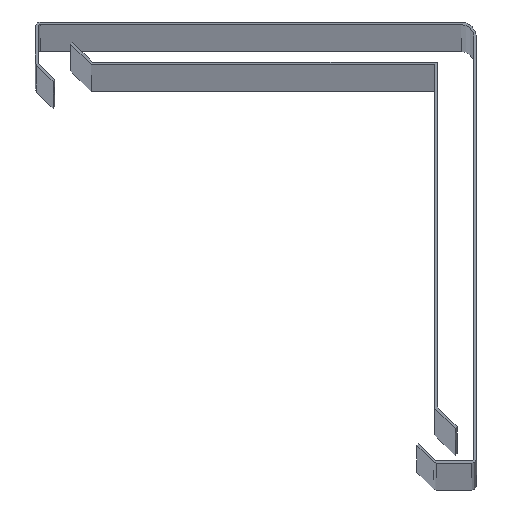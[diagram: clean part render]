
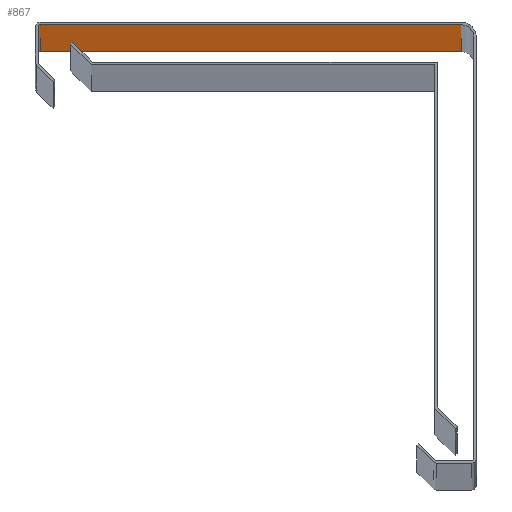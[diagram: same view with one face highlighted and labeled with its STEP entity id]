
A CAD part, top view. The second image highlights one B-rep face of the part: STEP entity #867.
In plain terms, the highlighted planar face has unit normal (0, -1, 0).
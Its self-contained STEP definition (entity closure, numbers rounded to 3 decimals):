
#27 = ORIENTED_EDGE ( 'NONE', *, *, #1517, .F. ) ;
#70 = FACE_OUTER_BOUND ( 'NONE', #1059, .T. ) ;
#121 = VERTEX_POINT ( 'NONE', #207 ) ;
#161 = DIRECTION ( 'NONE',  ( 0., 0., 1. ) ) ;
#163 = LINE ( 'NONE', #404, #545 ) ;
#196 = DIRECTION ( 'NONE',  ( -1., 0., 0. ) ) ;
#203 = EDGE_CURVE ( 'NONE', #121, #1338, #535, .T. ) ;
#207 = CARTESIAN_POINT ( 'NONE',  ( -2.54, 0., -3048. ) ) ;
#229 = VECTOR ( 'NONE', #231, 1000. ) ;
#231 = DIRECTION ( 'NONE',  ( -1., 0., 0. ) ) ;
#267 = PLANE ( 'NONE',  #657 ) ;
#351 = CARTESIAN_POINT ( 'NONE',  ( -2.54, 0., 0. ) ) ;
#404 = CARTESIAN_POINT ( 'NONE',  ( -85.884, 0., -3048. ) ) ;
#506 = ORIENTED_EDGE ( 'NONE', *, *, #203, .F. ) ;
#535 = LINE ( 'NONE', #1601, #1510 ) ;
#545 = VECTOR ( 'NONE', #161, 1000. ) ;
#578 = LINE ( 'NONE', #1630, #229 ) ;
#608 = CARTESIAN_POINT ( 'NONE',  ( -2.54, 0., -3048. ) ) ;
#612 = ORIENTED_EDGE ( 'NONE', *, *, #686, .T. ) ;
#654 = DIRECTION ( 'NONE',  ( -1., 0., 0. ) ) ;
#657 = AXIS2_PLACEMENT_3D ( 'NONE', #1539, #1410, #654 ) ;
#686 = EDGE_CURVE ( 'NONE', #708, #953, #578, .T. ) ;
#708 = VERTEX_POINT ( 'NONE', #351 ) ;
#867 = ADVANCED_FACE ( 'NONE', ( #70 ), #267, .F. ) ;
#918 = CARTESIAN_POINT ( 'NONE',  ( -85.884, 0., 0. ) ) ;
#953 = VERTEX_POINT ( 'NONE', #918 ) ;
#976 = DIRECTION ( 'NONE',  ( 0., 0., 1. ) ) ;
#1059 = EDGE_LOOP ( 'NONE', ( #612, #27, #506, #1278 ) ) ;
#1083 = EDGE_CURVE ( 'NONE', #121, #708, #1526, .T. ) ;
#1186 = VECTOR ( 'NONE', #976, 1000. ) ;
#1278 = ORIENTED_EDGE ( 'NONE', *, *, #1083, .T. ) ;
#1338 = VERTEX_POINT ( 'NONE', #1533 ) ;
#1410 = DIRECTION ( 'NONE',  ( 0., 1., 0. ) ) ;
#1510 = VECTOR ( 'NONE', #196, 1000. ) ;
#1517 = EDGE_CURVE ( 'NONE', #1338, #953, #163, .T. ) ;
#1526 = LINE ( 'NONE', #608, #1186 ) ;
#1533 = CARTESIAN_POINT ( 'NONE',  ( -85.884, 0., -3048. ) ) ;
#1539 = CARTESIAN_POINT ( 'NONE',  ( -85.884, 0., -3048. ) ) ;
#1601 = CARTESIAN_POINT ( 'NONE',  ( -85.884, 0., -3048. ) ) ;
#1630 = CARTESIAN_POINT ( 'NONE',  ( -85.884, 0., 0. ) ) ;
